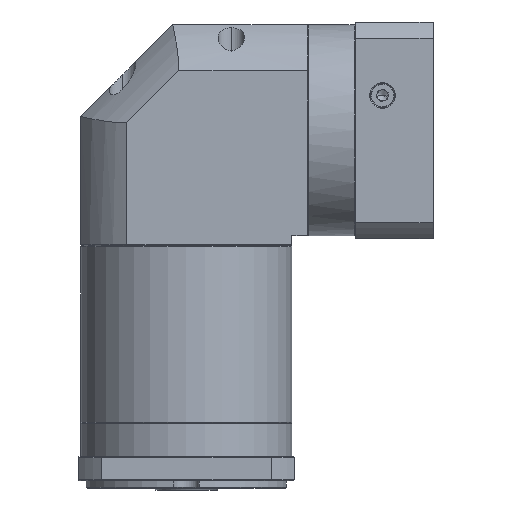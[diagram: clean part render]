
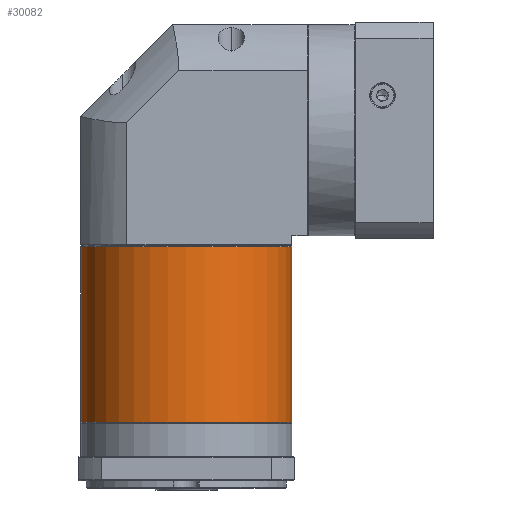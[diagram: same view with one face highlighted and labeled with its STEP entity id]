
A CAD part, front view. The second image highlights one B-rep face of the part: STEP entity #30082.
In plain terms, the highlighted cylindrical face has radius 57.5 mm (diameter 115 mm), a partial arc.
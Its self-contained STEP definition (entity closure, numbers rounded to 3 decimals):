
#385 = CARTESIAN_POINT ( 'NONE',  ( 47.209, 52.269, -56.354 ) ) ;
#5314 = EDGE_LOOP ( 'NONE', ( #23610, #127573, #71709, #75108, #68543 ) ) ;
#7591 = DIRECTION ( 'NONE',  ( -1., 0., 0. ) ) ;
#8821 = VERTEX_POINT ( 'NONE', #71913 ) ;
#10249 = DIRECTION ( 'NONE',  ( 0., 0., -1. ) ) ;
#14663 = VERTEX_POINT ( 'NONE', #60752 ) ;
#15102 = VECTOR ( 'NONE', #35747, 1000. ) ;
#16398 = CARTESIAN_POINT ( 'NONE',  ( -10.291, 52.269, -152.065 ) ) ;
#16704 = LINE ( 'NONE', #75210, #15102 ) ;
#16709 = DIRECTION ( 'NONE',  ( 0., 0., -1. ) ) ;
#16738 = CYLINDRICAL_SURFACE ( 'NONE', #95371, 57.5 ) ;
#19069 = AXIS2_PLACEMENT_3D ( 'NONE', #385, #10249, #20689 ) ;
#20689 = DIRECTION ( 'NONE',  ( -1., 0., 0. ) ) ;
#23610 = ORIENTED_EDGE ( 'NONE', *, *, #85553, .F. ) ;
#24221 = CARTESIAN_POINT ( 'NONE',  ( 47.209, 52.269, -152.065 ) ) ;
#30082 = ADVANCED_FACE ( 'NONE', ( #64739 ), #16738, .T. ) ;
#35747 = DIRECTION ( 'NONE',  ( 0., 0., -1. ) ) ;
#41079 = CARTESIAN_POINT ( 'NONE',  ( 47.209, 52.269, -56.354 ) ) ;
#47811 = DIRECTION ( 'NONE',  ( 0., 0., -1. ) ) ;
#57734 = CIRCLE ( 'NONE', #90567, 57.5 ) ;
#60403 = LINE ( 'NONE', #86862, #114620 ) ;
#60752 = CARTESIAN_POINT ( 'NONE',  ( 104.709, 52.269, -152.065 ) ) ;
#64739 = FACE_OUTER_BOUND ( 'NONE', #5314, .T. ) ;
#66194 = EDGE_CURVE ( 'NONE', #77459, #14663, #88945, .T. ) ;
#68543 = ORIENTED_EDGE ( 'NONE', *, *, #66194, .T. ) ;
#71709 = ORIENTED_EDGE ( 'NONE', *, *, #101476, .T. ) ;
#71913 = CARTESIAN_POINT ( 'NONE',  ( 104.709, 52.269, -56.354 ) ) ;
#75108 = ORIENTED_EDGE ( 'NONE', *, *, #109239, .T. ) ;
#75210 = CARTESIAN_POINT ( 'NONE',  ( 104.709, 52.269, -55.854 ) ) ;
#77459 = VERTEX_POINT ( 'NONE', #16398 ) ;
#83540 = DIRECTION ( 'NONE',  ( -1., 0., 0. ) ) ;
#85199 = VERTEX_POINT ( 'NONE', #126532 ) ;
#85553 = EDGE_CURVE ( 'NONE', #8821, #14663, #16704, .T. ) ;
#86825 = CARTESIAN_POINT ( 'NONE',  ( 47.209, 52.269, -55.854 ) ) ;
#86862 = CARTESIAN_POINT ( 'NONE',  ( -10.291, 52.269, -55.854 ) ) ;
#88945 = CIRCLE ( 'NONE', #98023, 57.5 ) ;
#90022 = DIRECTION ( 'NONE',  ( 0., 0., -1. ) ) ;
#90567 = AXIS2_PLACEMENT_3D ( 'NONE', #41079, #90022, #119882 ) ;
#91730 = CARTESIAN_POINT ( 'NONE',  ( 47.209, -5.231, -56.354 ) ) ;
#93060 = DIRECTION ( 'NONE',  ( 0., 0., 1. ) ) ;
#95371 = AXIS2_PLACEMENT_3D ( 'NONE', #86825, #47811, #7591 ) ;
#98023 = AXIS2_PLACEMENT_3D ( 'NONE', #24221, #93060, #83540 ) ;
#101476 = EDGE_CURVE ( 'NONE', #126618, #85199, #120433, .T. ) ;
#109239 = EDGE_CURVE ( 'NONE', #85199, #77459, #60403, .T. ) ;
#114620 = VECTOR ( 'NONE', #16709, 1000. ) ;
#119882 = DIRECTION ( 'NONE',  ( -1., 0., 0. ) ) ;
#120433 = CIRCLE ( 'NONE', #19069, 57.5 ) ;
#123234 = EDGE_CURVE ( 'NONE', #8821, #126618, #57734, .T. ) ;
#126532 = CARTESIAN_POINT ( 'NONE',  ( -10.291, 52.269, -56.354 ) ) ;
#126618 = VERTEX_POINT ( 'NONE', #91730 ) ;
#127573 = ORIENTED_EDGE ( 'NONE', *, *, #123234, .T. ) ;
